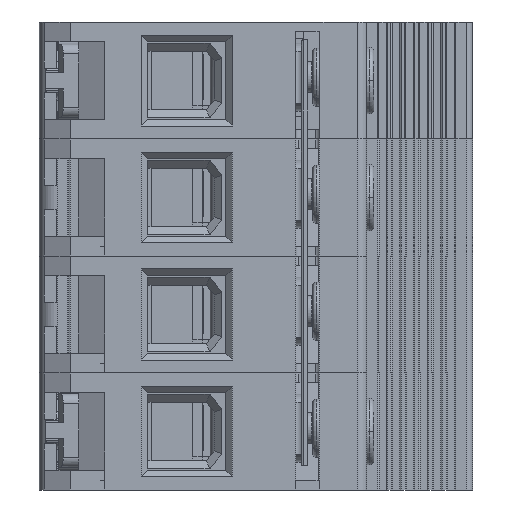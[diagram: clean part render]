
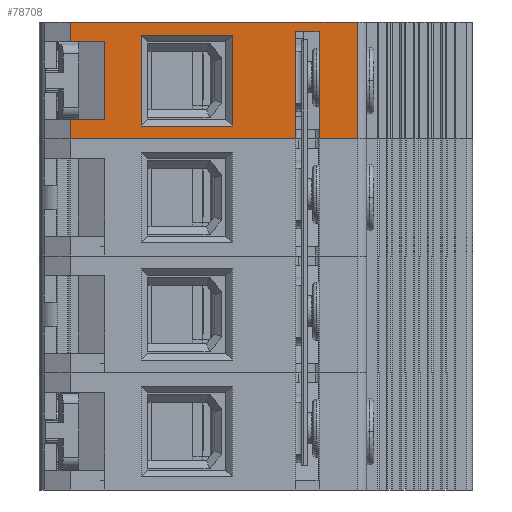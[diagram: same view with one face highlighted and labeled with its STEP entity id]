
A CAD part, left-side view. The second image highlights one B-rep face of the part: STEP entity #78708.
In plain terms, the highlighted planar face has unit normal (-1, 0, 0).
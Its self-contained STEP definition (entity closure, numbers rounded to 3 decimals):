
#2555=DIRECTION('',(0.,1.,0.));
#2556=VECTOR('',#2555,44.1);
#2557=CARTESIAN_POINT('',(0.,1.5,0.));
#2558=LINE('',#2557,#2556);
#3428=DIRECTION('',(0.,-1.,0.));
#3429=VECTOR('',#3428,5.85);
#3430=CARTESIAN_POINT('',(0.,7.35,-18.));
#3431=LINE('',#3430,#3429);
#9209=DIRECTION('',(0.,1.,0.));
#9210=VECTOR('',#9209,34.65);
#9211=CARTESIAN_POINT('',(0.,10.95,-18.));
#9212=LINE('',#9211,#9210);
#9213=DIRECTION('',(0.,0.,1.));
#9214=VECTOR('',#9213,12.);
#9215=CARTESIAN_POINT('',(0.,40.3,-15.));
#9216=LINE('',#9215,#9214);
#9217=DIRECTION('',(0.,1.,0.));
#9218=VECTOR('',#9217,5.3);
#9219=CARTESIAN_POINT('',(0.,40.3,-3.));
#9220=LINE('',#9219,#9218);
#9221=DIRECTION('',(0.,0.,1.));
#9222=VECTOR('',#9221,3.);
#9223=CARTESIAN_POINT('',(0.,45.6,-3.));
#9224=LINE('',#9223,#9222);
#9225=DIRECTION('',(0.,1.,0.));
#9226=VECTOR('',#9225,3.6);
#9227=CARTESIAN_POINT('',(0.,7.35,-1.5));
#9228=LINE('',#9227,#9226);
#9229=DIRECTION('',(0.,0.,-1.));
#9230=VECTOR('',#9229,16.5);
#9231=CARTESIAN_POINT('',(0.,10.95,-1.5));
#9232=LINE('',#9231,#9230);
#9233=DIRECTION('',(0.,-1.,0.));
#9234=VECTOR('',#9233,14.);
#9235=CARTESIAN_POINT('',(0.,34.7,-16.));
#9236=LINE('',#9235,#9234);
#9237=DIRECTION('',(0.,0.,1.));
#9238=VECTOR('',#9237,14.);
#9239=CARTESIAN_POINT('',(0.,20.7,-16.));
#9240=LINE('',#9239,#9238);
#9241=DIRECTION('',(0.,1.,0.));
#9242=VECTOR('',#9241,14.);
#9243=CARTESIAN_POINT('',(0.,20.7,-2.));
#9244=LINE('',#9243,#9242);
#9245=DIRECTION('',(0.,0.,-1.));
#9246=VECTOR('',#9245,3.);
#9247=CARTESIAN_POINT('',(0.,45.6,-15.));
#9248=LINE('',#9247,#9246);
#9249=DIRECTION('',(0.,1.,0.));
#9250=VECTOR('',#9249,5.3);
#9251=CARTESIAN_POINT('',(0.,40.3,-15.));
#9252=LINE('',#9251,#9250);
#10234=DIRECTION('',(0.,0.,1.));
#10235=VECTOR('',#10234,18.);
#10236=CARTESIAN_POINT('',(0.,1.5,-18.));
#10237=LINE('',#10236,#10235);
#10457=DIRECTION('',(0.,0.,-1.));
#10458=VECTOR('',#10457,16.5);
#10459=CARTESIAN_POINT('',(0.,7.35,-1.5));
#10460=LINE('',#10459,#10458);
#22908=DIRECTION('',(0.,0.,1.));
#22909=VECTOR('',#22908,14.);
#22910=CARTESIAN_POINT('',(0.,34.7,-16.));
#22911=LINE('',#22910,#22909);
#52114=CARTESIAN_POINT('',(0.,7.35,-18.));
#52116=VERTEX_POINT('',#52114);
#52117=CARTESIAN_POINT('',(0.,1.5,-18.));
#52118=VERTEX_POINT('',#52117);
#52138=CARTESIAN_POINT('',(0.,10.95,-18.));
#52140=VERTEX_POINT('',#52138);
#52256=CARTESIAN_POINT('',(0.,1.5,0.));
#52258=VERTEX_POINT('',#52256);
#52259=CARTESIAN_POINT('',(0.,45.6,0.));
#52260=VERTEX_POINT('',#52259);
#53165=CARTESIAN_POINT('',(0.,10.95,-1.5));
#53166=VERTEX_POINT('',#53165);
#53167=CARTESIAN_POINT('',(0.,7.35,-1.5));
#53168=VERTEX_POINT('',#53167);
#53275=CARTESIAN_POINT('',(0.,34.7,-16.));
#53276=VERTEX_POINT('',#53275);
#53277=CARTESIAN_POINT('',(0.,34.7,-2.));
#53278=VERTEX_POINT('',#53277);
#53279=CARTESIAN_POINT('',(0.,20.7,-16.));
#53280=VERTEX_POINT('',#53279);
#53281=CARTESIAN_POINT('',(0.,40.3,-3.));
#53282=CARTESIAN_POINT('',(0.,45.6,-3.));
#53283=VERTEX_POINT('',#53281);
#53284=VERTEX_POINT('',#53282);
#53285=CARTESIAN_POINT('',(0.,20.7,-2.));
#53286=VERTEX_POINT('',#53285);
#56043=CARTESIAN_POINT('',(0.,45.6,-18.));
#56044=VERTEX_POINT('',#56043);
#56199=CARTESIAN_POINT('',(0.,45.6,-15.));
#56200=VERTEX_POINT('',#56199);
#56605=CARTESIAN_POINT('',(0.,40.3,-15.));
#56606=VERTEX_POINT('',#56605);
#78673=CARTESIAN_POINT('',(0.,50.4,-18.));
#78674=DIRECTION('',(-1.,0.,0.));
#78675=DIRECTION('',(0.,-1.,0.));
#78676=AXIS2_PLACEMENT_3D('',#78673,#78674,#78675);
#78677=PLANE('',#78676);
#78678=ORIENTED_EDGE('',*,*,#70681,.T.);
#78680=ORIENTED_EDGE('',*,*,#78679,.F.);
#78682=ORIENTED_EDGE('',*,*,#78681,.F.);
#78683=ORIENTED_EDGE('',*,*,#78664,.T.);
#78684=ORIENTED_EDGE('',*,*,#78546,.T.);
#78685=ORIENTED_EDGE('',*,*,#78528,.T.);
#78686=ORIENTED_EDGE('',*,*,#69668,.F.);
#78688=ORIENTED_EDGE('',*,*,#78687,.F.);
#78689=ORIENTED_EDGE('',*,*,#70709,.F.);
#78691=ORIENTED_EDGE('',*,*,#78690,.F.);
#78693=ORIENTED_EDGE('',*,*,#78692,.T.);
#78695=ORIENTED_EDGE('',*,*,#78694,.T.);
#78696=EDGE_LOOP('',(#78678,#78680,#78682,#78683,#78684,#78685,#78686,#78688,
#78689,#78691,#78693,#78695));
#78697=FACE_OUTER_BOUND('',#78696,.F.);
#78699=ORIENTED_EDGE('',*,*,#78698,.T.);
#78701=ORIENTED_EDGE('',*,*,#78700,.T.);
#78703=ORIENTED_EDGE('',*,*,#78702,.T.);
#78705=ORIENTED_EDGE('',*,*,#78704,.F.);
#78706=EDGE_LOOP('',(#78699,#78701,#78703,#78705));
#78707=FACE_BOUND('',#78706,.F.);
#78708=ADVANCED_FACE('',(#78697,#78707),#78677,.T.);
#69668=EDGE_CURVE('',#52258,#52260,#2558,.T.);
#70681=EDGE_CURVE('',#52140,#56044,#9212,.T.);
#70709=EDGE_CURVE('',#52116,#52118,#3431,.T.);
#78528=EDGE_CURVE('',#53284,#52260,#9224,.T.);
#78546=EDGE_CURVE('',#53283,#53284,#9220,.T.);
#78664=EDGE_CURVE('',#56606,#53283,#9216,.T.);
#78679=EDGE_CURVE('',#56200,#56044,#9248,.T.);
#78681=EDGE_CURVE('',#56606,#56200,#9252,.T.);
#78687=EDGE_CURVE('',#52118,#52258,#10237,.T.);
#78690=EDGE_CURVE('',#53168,#52116,#10460,.T.);
#78692=EDGE_CURVE('',#53168,#53166,#9228,.T.);
#78694=EDGE_CURVE('',#53166,#52140,#9232,.T.);
#78698=EDGE_CURVE('',#53276,#53280,#9236,.T.);
#78700=EDGE_CURVE('',#53280,#53286,#9240,.T.);
#78702=EDGE_CURVE('',#53286,#53278,#9244,.T.);
#78704=EDGE_CURVE('',#53276,#53278,#22911,.T.);
